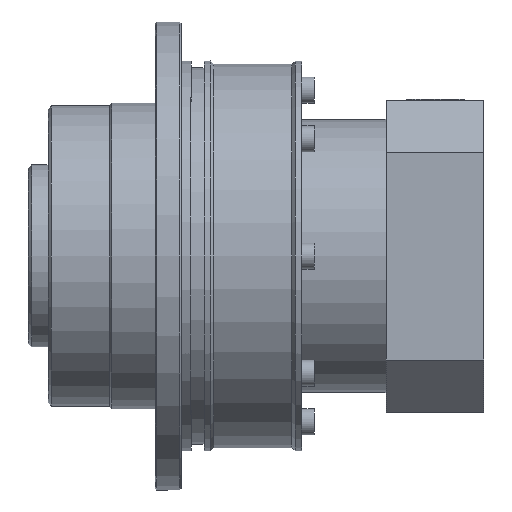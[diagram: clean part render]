
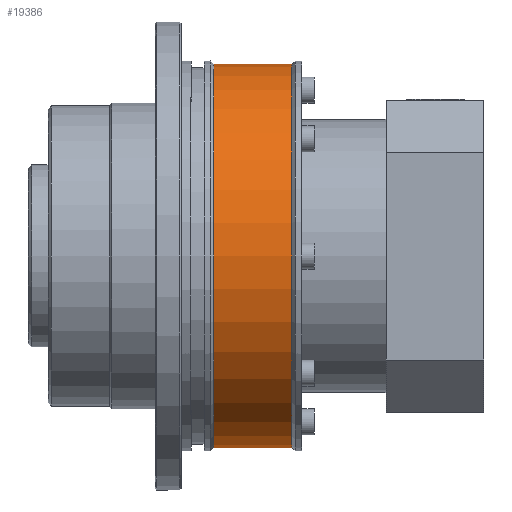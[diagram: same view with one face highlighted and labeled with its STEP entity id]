
A CAD part, left-side view. The second image highlights one B-rep face of the part: STEP entity #19386.
In plain terms, the highlighted cylindrical face has radius 29.5 mm (diameter 59 mm), a partial arc.
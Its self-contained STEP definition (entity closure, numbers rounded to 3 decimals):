
#1144 = FACE_OUTER_BOUND ( 'NONE', #21106, .T. ) ;
#1971 = CARTESIAN_POINT ( 'NONE',  ( -75.322, 7.033, -29.5 ) ) ;
#1978 = CARTESIAN_POINT ( 'NONE',  ( -75.322, -4.967, 0. ) ) ;
#2068 = DIRECTION ( 'NONE',  ( 0., 0., 1. ) ) ;
#2550 = CARTESIAN_POINT ( 'NONE',  ( -75.322, -19.467, -29.5 ) ) ;
#4235 = CARTESIAN_POINT ( 'NONE',  ( -75.322, -4.967, -29.5 ) ) ;
#4403 = VECTOR ( 'NONE', #17687, 1000. ) ;
#5045 = EDGE_CURVE ( 'NONE', #7146, #9642, #6312, .T. ) ;
#5653 = DIRECTION ( 'NONE',  ( 0., 1., 0. ) ) ;
#5987 = ORIENTED_EDGE ( 'NONE', *, *, #17198, .T. ) ;
#6312 = LINE ( 'NONE', #10643, #4403 ) ;
#6540 = CIRCLE ( 'NONE', #15634, 29.5 ) ;
#6657 = CIRCLE ( 'NONE', #19150, 29.5 ) ;
#7146 = VERTEX_POINT ( 'NONE', #18786 ) ;
#8561 = VECTOR ( 'NONE', #16632, 1000. ) ;
#9247 = DIRECTION ( 'NONE',  ( 0., 0., -1. ) ) ;
#9443 = VERTEX_POINT ( 'NONE', #4235 ) ;
#9642 = VERTEX_POINT ( 'NONE', #16957 ) ;
#10527 = DIRECTION ( 'NONE',  ( 0., -1., 0. ) ) ;
#10643 = CARTESIAN_POINT ( 'NONE',  ( -75.322, -19.467, 29.5 ) ) ;
#10793 = DIRECTION ( 'NONE',  ( 0., 1., 0. ) ) ;
#12216 = CARTESIAN_POINT ( 'NONE',  ( -75.322, -19.467, 0. ) ) ;
#12514 = EDGE_CURVE ( 'NONE', #16426, #7146, #6657, .T. ) ;
#14018 = CYLINDRICAL_SURFACE ( 'NONE', #21870, 29.5 ) ;
#15634 = AXIS2_PLACEMENT_3D ( 'NONE', #1978, #10793, #9247 ) ;
#16187 = DIRECTION ( 'NONE',  ( 0., 0., -1. ) ) ;
#16426 = VERTEX_POINT ( 'NONE', #1971 ) ;
#16632 = DIRECTION ( 'NONE',  ( 0., -1., 0. ) ) ;
#16957 = CARTESIAN_POINT ( 'NONE',  ( -75.322, -4.967, 29.5 ) ) ;
#17198 = EDGE_CURVE ( 'NONE', #16426, #9443, #18975, .T. ) ;
#17687 = DIRECTION ( 'NONE',  ( 0., -1., 0. ) ) ;
#17711 = ORIENTED_EDGE ( 'NONE', *, *, #12514, .F. ) ;
#18474 = ORIENTED_EDGE ( 'NONE', *, *, #22607, .T. ) ;
#18786 = CARTESIAN_POINT ( 'NONE',  ( -75.322, 7.033, 29.5 ) ) ;
#18975 = LINE ( 'NONE', #2550, #8561 ) ;
#19150 = AXIS2_PLACEMENT_3D ( 'NONE', #19596, #5653, #2068 ) ;
#19386 = ADVANCED_FACE ( 'NONE', ( #1144 ), #14018, .T. ) ;
#19596 = CARTESIAN_POINT ( 'NONE',  ( -75.322, 7.033, 0. ) ) ;
#20676 = ORIENTED_EDGE ( 'NONE', *, *, #5045, .F. ) ;
#21106 = EDGE_LOOP ( 'NONE', ( #20676, #17711, #5987, #18474 ) ) ;
#21870 = AXIS2_PLACEMENT_3D ( 'NONE', #12216, #10527, #16187 ) ;
#22607 = EDGE_CURVE ( 'NONE', #9443, #9642, #6540, .T. ) ;
